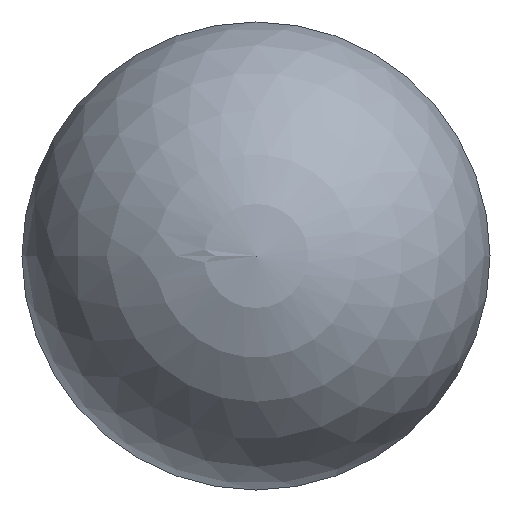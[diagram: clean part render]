
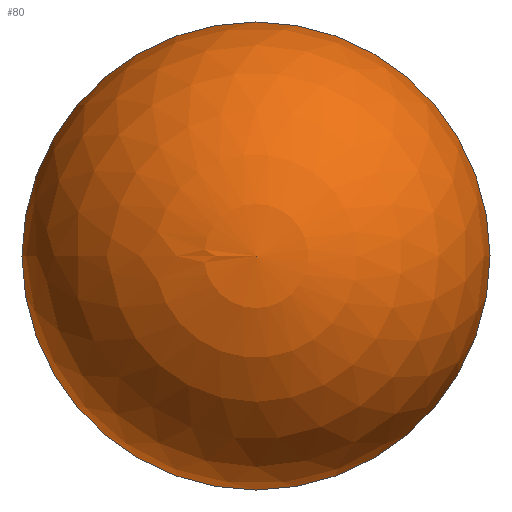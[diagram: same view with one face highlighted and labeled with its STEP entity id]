
A CAD part, left-side view. The second image highlights one B-rep face of the part: STEP entity #80.
In plain terms, the highlighted spherical face has radius 1.7 mm.
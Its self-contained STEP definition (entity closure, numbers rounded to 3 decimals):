
#80 = ADVANCED_FACE( '', ( #98, #99 ), #100, .T. );
#98 = FACE_BOUND( '', #118, .T. );
#99 = FACE_OUTER_BOUND( '', #119, .T. );
#100 = SPHERICAL_SURFACE( '', #120, 1.7 );
#118 = VERTEX_LOOP( '', #148 );
#119 = EDGE_LOOP( '', ( #149 ) );
#120 = AXIS2_PLACEMENT_3D( '', #150, #151, #152 );
#148 = VERTEX_POINT( '', #163 );
#149 = ORIENTED_EDGE( '', *, *, #162, .F. );
#150 = CARTESIAN_POINT( '', ( 1.7, 0., 0. ) );
#151 = DIRECTION( '', ( 1., 0., 0. ) );
#152 = DIRECTION( '', ( 0., 1., 0. ) );
#162 = EDGE_CURVE( '', #174, #174, #175, .T. );
#163 = CARTESIAN_POINT( '', ( 0., 0., 0. ) );
#174 = VERTEX_POINT( '', #186 );
#175 = CIRCLE( '', #187, 1.7 );
#186 = CARTESIAN_POINT( '', ( 1.7, 0., -1.7 ) );
#187 = AXIS2_PLACEMENT_3D( '', #203, #204, #205 );
#203 = CARTESIAN_POINT( '', ( 1.7, 0., 0. ) );
#204 = DIRECTION( '', ( 1., 0., 0. ) );
#205 = DIRECTION( '', ( 0., 0., -1. ) );
